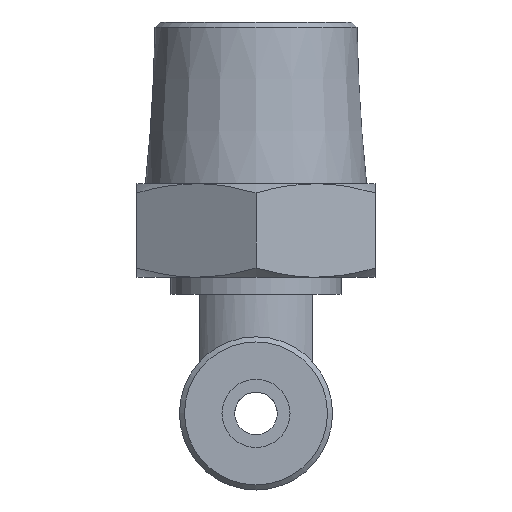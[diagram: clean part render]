
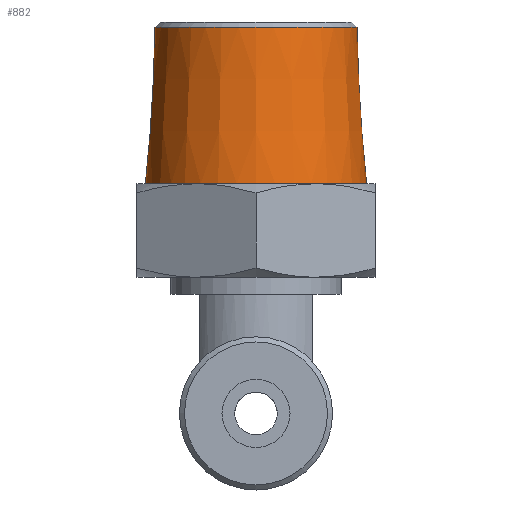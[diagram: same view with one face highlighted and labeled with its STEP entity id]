
A CAD part, front view. The second image highlights one B-rep face of the part: STEP entity #882.
In plain terms, the highlighted conical face has half-angle 3.5 degrees and reference radius 6.21 mm.
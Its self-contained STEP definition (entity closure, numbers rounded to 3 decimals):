
#78=CONICAL_SURFACE('',#973,6.209,0.061);
#97=FACE_OUTER_BOUND('',#159,.T.);
#159=EDGE_LOOP('',(#606,#607,#608,#609,#610));
#237=LINE('',#1415,#279);
#279=VECTOR('',#1116,6.209);
#321=CIRCLE('',#971,5.937);
#322=CIRCLE('',#972,5.937);
#323=CIRCLE('',#974,6.5);
#386=VERTEX_POINT('',#1408);
#387=VERTEX_POINT('',#1410);
#388=VERTEX_POINT('',#1414);
#469=EDGE_CURVE('',#386,#387,#321,.T.);
#470=EDGE_CURVE('',#387,#386,#322,.T.);
#471=EDGE_CURVE('',#387,#388,#237,.T.);
#472=EDGE_CURVE('',#388,#388,#323,.T.);
#606=ORIENTED_EDGE('',*,*,#469,.F.);
#607=ORIENTED_EDGE('',*,*,#470,.F.);
#608=ORIENTED_EDGE('',*,*,#471,.T.);
#609=ORIENTED_EDGE('',*,*,#472,.F.);
#610=ORIENTED_EDGE('',*,*,#471,.F.);
#882=ADVANCED_FACE('',(#97),#78,.T.);
#971=AXIS2_PLACEMENT_3D('',#1411,#1110,#1111);
#972=AXIS2_PLACEMENT_3D('',#1412,#1112,#1113);
#973=AXIS2_PLACEMENT_3D('',#1413,#1114,#1115);
#974=AXIS2_PLACEMENT_3D('',#1416,#1117,#1118);
#1110=DIRECTION('center_axis',(0.,0.,1.));
#1111=DIRECTION('ref_axis',(0.,-1.,0.));
#1112=DIRECTION('center_axis',(0.,0.,1.));
#1113=DIRECTION('ref_axis',(0.,-1.,0.));
#1114=DIRECTION('center_axis',(0.,0.,-1.));
#1115=DIRECTION('ref_axis',(0.,1.,0.));
#1116=DIRECTION('',(0.,-0.061,-0.998));
#1117=DIRECTION('center_axis',(0.,0.,-1.));
#1118=DIRECTION('ref_axis',(0.,1.,0.));
#1408=CARTESIAN_POINT('',(0.,5.937,22.701));
#1410=CARTESIAN_POINT('',(0.,-5.937,22.701));
#1411=CARTESIAN_POINT('Origin',(0.,0.,22.701));
#1412=CARTESIAN_POINT('Origin',(0.,0.,22.701));
#1413=CARTESIAN_POINT('Origin',(0.,0.,18.25));
#1414=CARTESIAN_POINT('',(0.,-6.5,13.5));
#1415=CARTESIAN_POINT('',(0.,-6.209,18.25));
#1416=CARTESIAN_POINT('Origin',(0.,0.,13.5));
